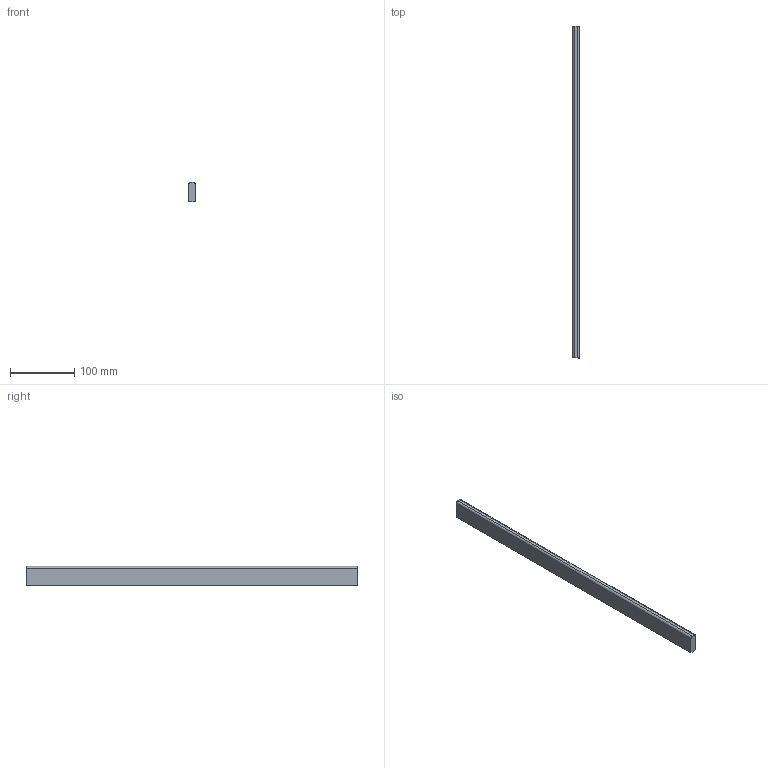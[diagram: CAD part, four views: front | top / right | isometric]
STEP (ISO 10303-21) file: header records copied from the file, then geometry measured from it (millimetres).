
FILE_DESCRIPTION (( 'STEP AP214' ), '1' );
FILE_NAME ('_Seitenreling_SP60701200_RL517,1.step', '2010-09-06T14:51:59', ( 'grass' ), ( '' ), 'SwSTEP 2.0', 'SolidWorks 2010', '' );
FILE_SCHEMA (( 'AUTOMOTIVE_DESIGN' ));
Length unit declared in the file: millimetre
Products named in the file (1): _Seitenreling_SP60701200_RL517,1
Bounding box: 10.5 x 517.1 x 30 mm (x, y, z)
Volume: 160889 mm3; surface area: 41175.7 mm2
Topology: 1 solids, 1 shells, 8 faces, 18 edges, 12 vertices
Faces by surface type: plane 6, cylinder 2
Entity records: 260 total; most frequent: DIRECTION 40, CARTESIAN_POINT 39, ORIENTED_EDGE 36, EDGE_CURVE 18, LINE 14, VECTOR 14, AXIS2_PLACEMENT_3D 13, VERTEX_POINT 12
